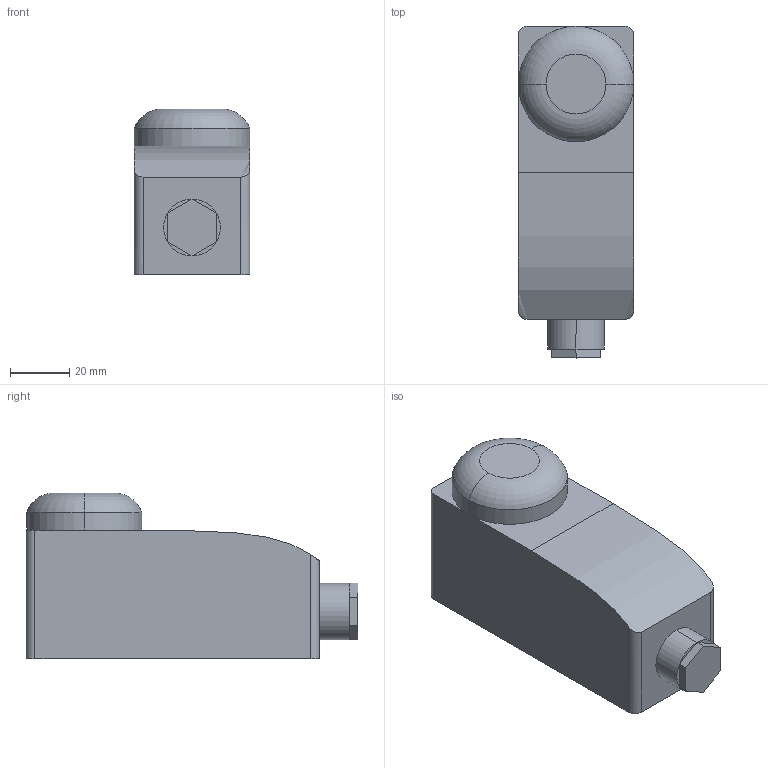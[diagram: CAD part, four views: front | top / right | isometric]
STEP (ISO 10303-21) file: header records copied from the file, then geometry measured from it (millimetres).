
FILE_DESCRIPTION (( 'STEP AP214' ), '1' );
FILE_NAME ('BRC.STEP', '2022-12-16T11:21:23', ( '' ), ( '' ), 'SwSTEP 2.0', 'SolidWorks 2022', '' );
FILE_SCHEMA (( 'AUTOMOTIVE_DESIGN' ));
Length unit declared in the file: millimetre
Products named in the file (1): BRC
Bounding box: 39 x 112 x 56 mm (x, y, z)
Volume: 179537.8 mm3; surface area: 23139.9 mm2
Topology: 2 solids, 2 shells, 33 faces, 67 edges, 40 vertices
Faces by surface type: plane 22, cylinder 8, torus 2, bspline 1
Entity records: 928 total; most frequent: CARTESIAN_POINT 184, DIRECTION 153, ORIENTED_EDGE 134, EDGE_CURVE 67, AXIS2_PLACEMENT_3D 57, VERTEX_POINT 40, LINE 39, VECTOR 39
